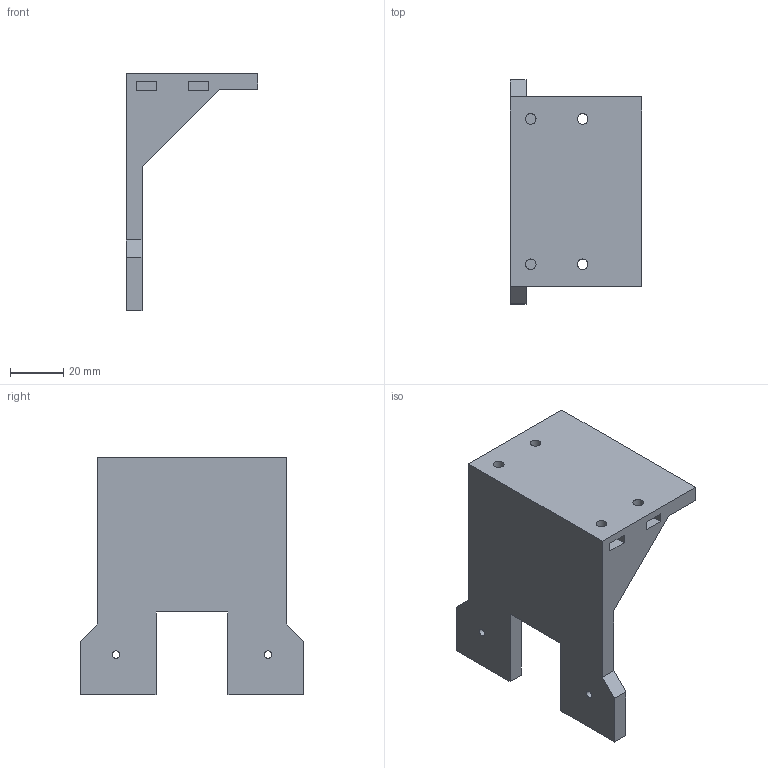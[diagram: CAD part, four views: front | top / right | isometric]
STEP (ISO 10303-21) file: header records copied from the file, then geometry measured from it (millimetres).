
FILE_DESCRIPTION(('FreeCAD Model'),'2;1');
FILE_NAME('/home/mike/Documents/CAD/CNC/FreeCAD/STEP/AxesHolderZ.step', '2017-05-23T19:37:48',('Author'),(''), 'Open CASCADE STEP processor 6.7','FreeCAD','Unknown');
FILE_SCHEMA(('AUTOMOTIVE_DESIGN_CC2 { 1 2 10303 214 -1 1 5 4 }'));
Length unit declared in the file: millimetre
Products named in the file (1): AxesHolder
Bounding box: 49.5 x 84 x 89 mm (x, y, z)
Volume: 80848.1 mm3; surface area: 22101 mm2
Topology: 1 solids, 1 shells, 53 faces, 129 edges, 86 vertices
Faces by surface type: plane 41, cylinder 12
Full cylindrical faces by diameter (mm): 2.8 x2, 4 x8, 6 x2
Entity records: 3343 total; most frequent: CARTESIAN_POINT 633, DIRECTION 505, LINE 337, VECTOR 337, ORIENTED_EDGE 258, PCURVE 258, DEFINITIONAL_REPRESENTATION 258, EDGE_CURVE 129
